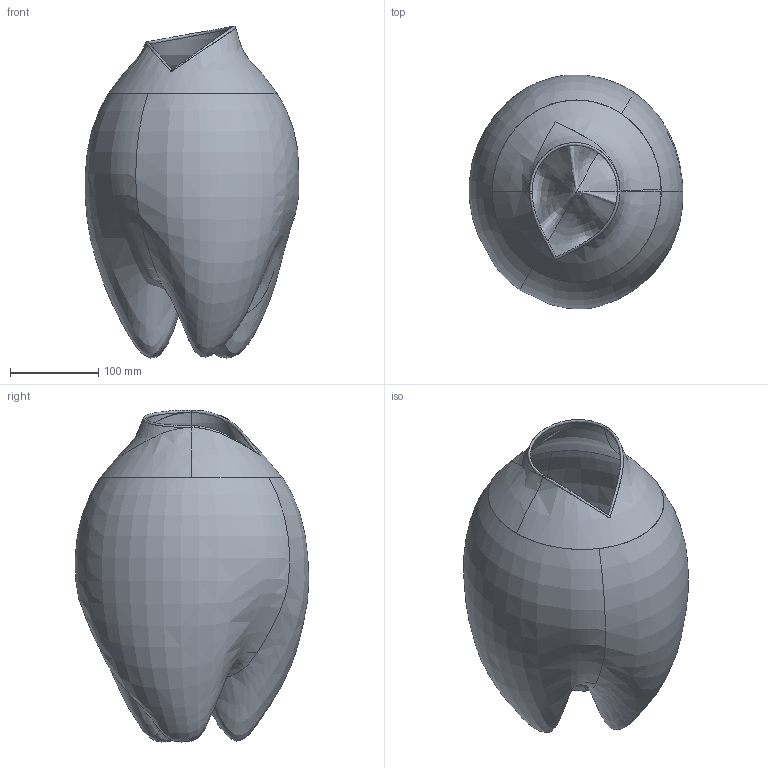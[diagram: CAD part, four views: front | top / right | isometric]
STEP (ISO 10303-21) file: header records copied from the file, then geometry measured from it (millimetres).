
FILE_DESCRIPTION(/* description */ (''),/* implementation_level */ '2;1');
FILE_NAME(/* name */ 'Sumo Vase Slim',/* time_stamp */ '2022-03-22T13:04:27+01:00',/* author */ (''),/* organization */ (''),/* preprocessor_version */ 'ST-DEVELOPER v15',/* originating_system */ '',/* authorisation */ '');
FILE_SCHEMA (('AUTOMOTIVE_DESIGN'));
Length unit declared in the file: millimetre
Products named in the file (1): Document
Bounding box: 241.33 x 264.44 x 375.29 mm (x, y, z)
Surface area: 375791 mm2 (no closed solid volume)
Topology: 0 solids, 10 shells, 13 faces, 65 edges, 66 vertices
Faces by surface type: bspline 13
Entity records: 23404 total; most frequent: CARTESIAN_POINT 23067, B_SPLINE_CURVE_WITH_KNOTS 62, ORIENTED_EDGE 57, EDGE_CURVE 51, VERTEX_POINT 46, PRESENTATION_LAYER_ASSIGNMENT 21, ADVANCED_FACE 13, FACE_OUTER_BOUND 13
